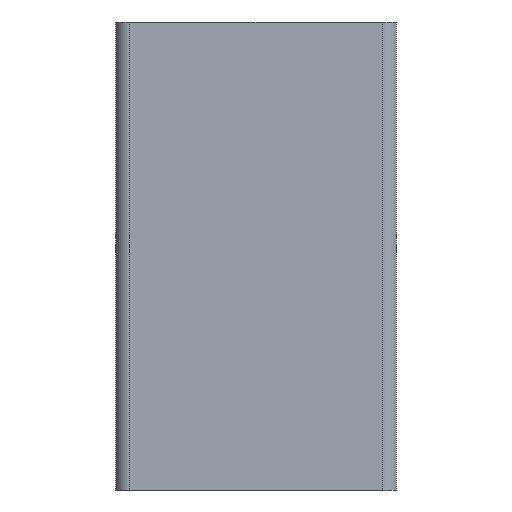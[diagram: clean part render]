
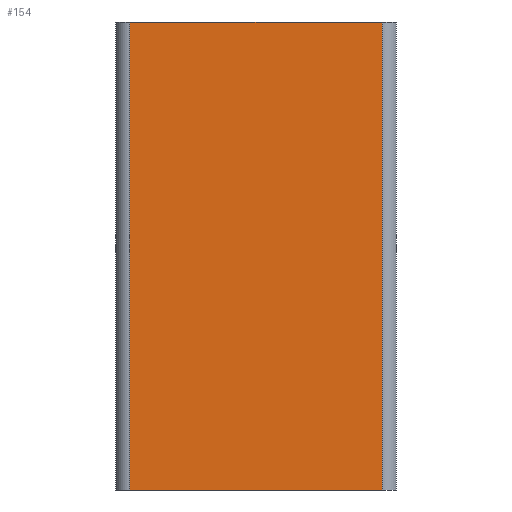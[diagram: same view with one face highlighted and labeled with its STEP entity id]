
A CAD part, left-side view. The second image highlights one B-rep face of the part: STEP entity #154.
In plain terms, the highlighted planar face has unit normal (-1, 0, 0).
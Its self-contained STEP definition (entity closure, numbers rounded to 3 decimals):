
#154=ADVANCED_FACE('',(#324),#325,.F.);
#324=FACE_OUTER_BOUND('',#507,.T.);
#325=PLANE('',#508);
#507=EDGE_LOOP('',(#915,#916,#917,#918));
#508=AXIS2_PLACEMENT_3D('',#919,#920,#921);
#915=ORIENTED_EDGE('',*,*,#1312,.T.);
#916=ORIENTED_EDGE('',*,*,#1232,.F.);
#917=ORIENTED_EDGE('',*,*,#1320,.F.);
#918=ORIENTED_EDGE('',*,*,#1210,.T.);
#919=CARTESIAN_POINT('',(0.,28.5,50.0));
#920=DIRECTION('',(1.0,0.0,-0.0));
#921=DIRECTION('',(0.0,0.0,1.0));
#1210=EDGE_CURVE('',#1486,#1484,#1487,.T.);
#1232=EDGE_CURVE('',#1518,#1513,#1520,.T.);
#1312=EDGE_CURVE('',#1484,#1513,#1642,.T.);
#1320=EDGE_CURVE('',#1486,#1518,#1652,.T.);
#1484=VERTEX_POINT('',#1856);
#1486=VERTEX_POINT('',#1858);
#1487=LINE('',#1859,#1860);
#1513=VERTEX_POINT('',#1896);
#1518=VERTEX_POINT('',#1902);
#1520=LINE('',#1904,#1905);
#1642=LINE('',#2068,#2069);
#1652=LINE('',#2082,#2083);
#1856=CARTESIAN_POINT('',(0.,28.5,0.0));
#1858=CARTESIAN_POINT('',(0.,28.5,50.0));
#1859=CARTESIAN_POINT('',(0.,28.5,50.0));
#1860=VECTOR('',#2247,1.0);
#1896=CARTESIAN_POINT('',(0.,1.5,0.0));
#1902=CARTESIAN_POINT('',(0.,1.5,50.0));
#1904=CARTESIAN_POINT('',(0.,1.5,50.0));
#1905=VECTOR('',#2274,1.0);
#2068=CARTESIAN_POINT('',(0.,28.5,0.0));
#2069=VECTOR('',#2388,1.0);
#2082=CARTESIAN_POINT('',(0.,28.5,50.0));
#2083=VECTOR('',#2395,1.0);
#2247=DIRECTION('',(0.0,0.0,-1.0));
#2274=DIRECTION('',(0.0,0.0,-1.0));
#2388=DIRECTION('',(0.0,-1.0,0.0));
#2395=DIRECTION('',(0.0,-1.0,0.0));
